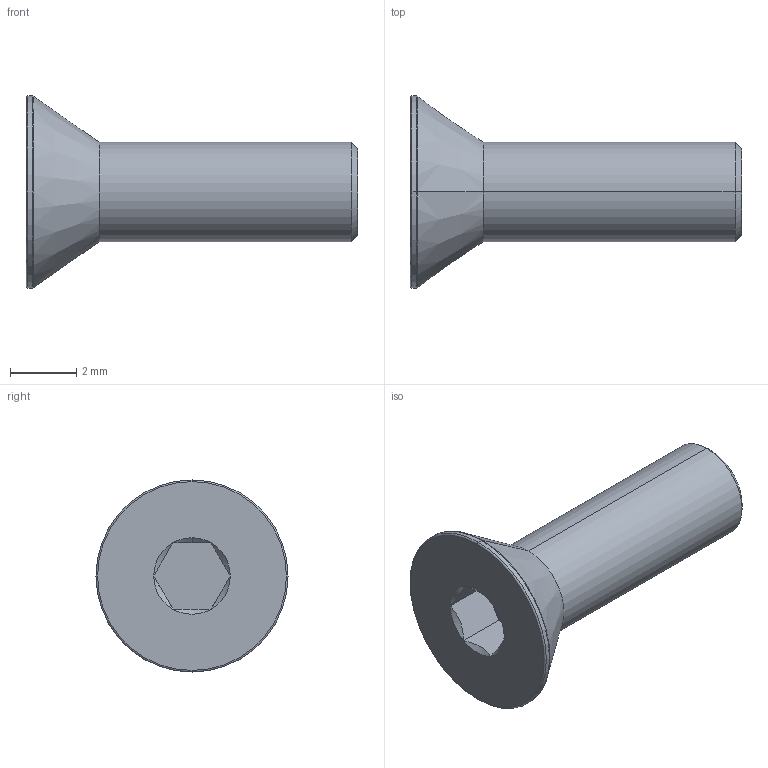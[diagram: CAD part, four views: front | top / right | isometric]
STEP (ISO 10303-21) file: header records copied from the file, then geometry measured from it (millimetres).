
FILE_DESCRIPTION (( 'STEP AP203' ), '1' );
FILE_NAME ('LGDB-TDE-M3x10.STEP', '2026-08-10T11:47:53', ( '' ), ( '' ), 'SwSTEP 2.0', 'SolidWorks 2020', '' );
FILE_SCHEMA (( 'CONFIG_CONTROL_DESIGN' ));
Length unit declared in the file: millimetre
Products named in the file (1): LGDB-TDE-M3x10
Bounding box: 10 x 5.8 x 5.8 mm (x, y, z)
Volume: 86.4 mm3; surface area: 152.8 mm2
Topology: 1 solids, 1 shells, 28 faces, 53 edges, 28 vertices
Faces by surface type: cone 11, plane 9, torus 4, cylinder 4
Entity records: 780 total; most frequent: CARTESIAN_POINT 141, DIRECTION 129, ORIENTED_EDGE 106, AXIS2_PLACEMENT_3D 54, EDGE_CURVE 53, EDGE_LOOP 29, FACE_OUTER_BOUND 28, VERTEX_POINT 28
